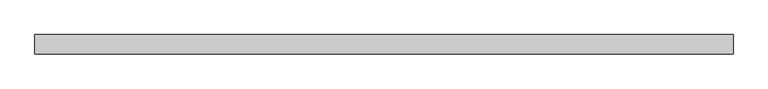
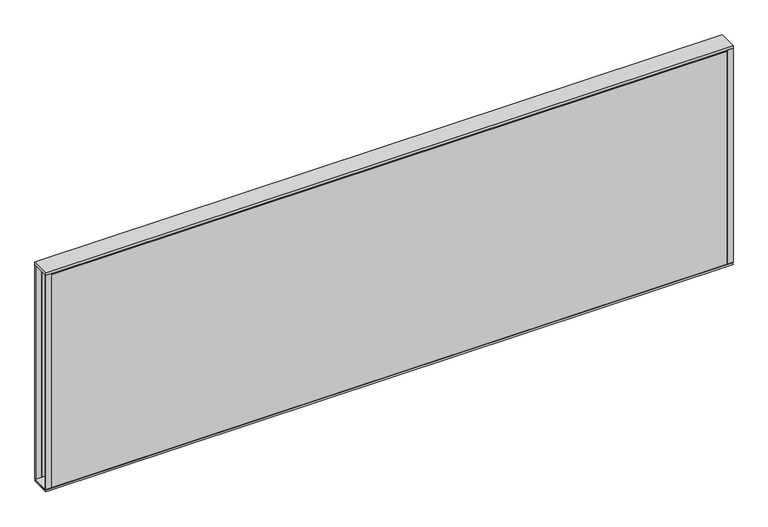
"""IFC4 building model written with IfcOpenShell, lengths in millimetres: furniture geometry, Steelcase - Kick Solutions - Panel - Stacker - Tackable Acoustical : 24H x 72W."""

from ifc_helpers import new_model, si_unit, frame, origin, place, context, project, spatial, polyline, outline, extrude, source, transform, mapped, element, save


def furniture_9732e5ca(model_context):
    return source(origin(), model_context, "Body", "SweptSolid", [
        extrude(outline(polyline([(-50.7995075, 1073.2669139), (-0.000494, 1073.2669139), (-3.1752531, 1070.0921549), (-47.6247484, 1070.0921549), (-50.7995075, 1073.2669139)])), frame((0.0, 0.0, 0.0), z_axis=(1.0, 0.0, 0.0), x_axis=(0.0, 1.0, 0.0)), (0.0, 0.0, 1.0), 1828.8),
        extrude(outline(polyline([(0.0, 1073.2669139), (-3.1750015, 1073.2669139), (-3.1750015, 1676.5169018), (0.0, 1673.4357466), (0.0, 1073.2669139)])), frame((15.8749996, 0.0, 0.0), z_axis=(1.0, 0.0, 0.0), x_axis=(0.0, 1.0, 0.0)), (0.0, 0.0, 1.0), 1797.0500008),
        extrude(outline(polyline([(-50.8000015, 1073.2669139), (-50.8000015, 1673.4357466), (-47.625, 1676.5169018), (-47.625, 1073.2669139), (-50.8000015, 1073.2669139)])), frame((15.8749996, 0.0, 0.0), z_axis=(1.0, 0.0, 0.0), x_axis=(0.0, 1.0, 0.0)), (0.0, 0.0, 1.0), 1797.0500008),
        extrude(outline(polyline([(1828.8, -3.1750015), (1812.9250004, -3.1750015), (1812.9250004, 0.0), (1828.8, 0.0), (1828.8, -3.1750015)])), frame((0.0, 0.0, 1073.2669139), z_axis=(0.0, 0.0, 1.0), x_axis=(1.0, 0.0, 0.0)), (0.0, 0.0, 1.0), 603.2499879),
        extrude(outline(polyline([(15.8749996, -50.8000015), (0.0, -50.8000015), (0.0, -47.625), (15.8749996, -47.625), (15.8749996, -50.8000015)])), frame((0.0, 0.0, 1073.2669139), z_axis=(0.0, 0.0, 1.0), x_axis=(1.0, 0.0, 0.0)), (0.0, 0.0, 1.0), 603.2499879),
        extrude(outline(polyline([(1828.8, 0.0), (1828.8, -50.8000015), (0.0, -50.8000015), (0.0, 0.0), (1828.8, 0.0)])), frame((0.0, 0.0, 1676.5169018), z_axis=(0.0, 0.0, 1.0), x_axis=(1.0, 0.0, 0.0)), (0.0, 0.0, 1.0), 6.35),
        extrude(outline(polyline([(15.8749996, -3.1750015), (0.0, -3.1750015), (0.0, 0.0), (15.8749996, 0.0), (15.8749996, -3.1750015)])), frame((0.0, 0.0, 1073.2669139), z_axis=(0.0, 0.0, 1.0), x_axis=(1.0, 0.0, 0.0)), (0.0, 0.0, 1.0), 603.2499879),
        extrude(outline(polyline([(1828.8, -50.8000015), (1812.9250004, -50.8000015), (1812.9250004, -47.625), (1828.8, -47.625), (1828.8, -50.8000015)])), frame((0.0, 0.0, 1073.2669139), z_axis=(0.0, 0.0, 1.0), x_axis=(1.0, 0.0, 0.0)), (0.0, 0.0, 1.0), 603.2499879),
        extrude(outline(polyline([(-50.8000015, 1066.9169018), (-47.6247484, 1070.0921549), (-3.1752531, 1070.0921549), (0.0, 1066.9169018), (-50.8000015, 1066.9169018)])), frame((0.0, 0.0, 0.0), z_axis=(1.0, 0.0, 0.0), x_axis=(0.0, 1.0, 0.0)), (0.0, 0.0, 1.0), 1828.8),
    ])


if __name__ == "__main__":
    model = new_model("IFC4")
    model_context = context("Model", 3, world=origin())
    ifc_project = project(units=[si_unit("LENGTHUNIT", "METRE", prefix="MILLI")], contexts=[model_context])
    site = spatial("IfcSite", under=ifc_project)
    building = spatial("IfcBuilding", under=site)
    placement = place(None, origin())
    furniture_shape = furniture_9732e5ca(model_context)
    element("IfcFurniture", 1, ObjectType="Steelcase - Kick Solutions - Panel - Stacker - Tackable Acoustical : 24H x 72W", at=placement, inside=building, context=model_context, shape_type="MappedRepresentation", body=[
        mapped(furniture_shape, transform((0.0, 0.0, 0.0), x_axis=(1.0, 0.0, 0.0), y_axis=(0.0, 1.0, 0.0), z_axis=(0.0, 0.0, 1.0))),
    ])
    save(model, "model.ifc")
